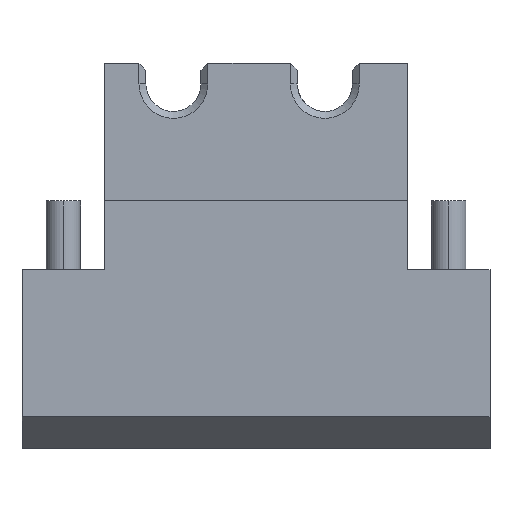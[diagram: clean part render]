
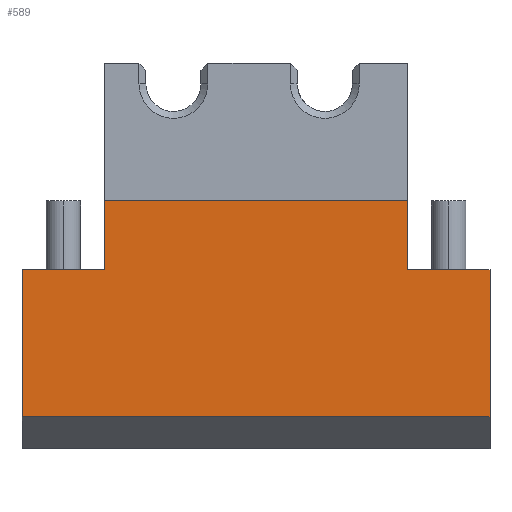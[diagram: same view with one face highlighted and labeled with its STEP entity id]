
A CAD part, left-side view. The second image highlights one B-rep face of the part: STEP entity #589.
In plain terms, the highlighted planar face has unit normal (-1, 0, 0).
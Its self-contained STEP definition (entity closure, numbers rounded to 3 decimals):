
#1 = CARTESIAN_POINT ( 'NONE',  ( 0., 11., 13. ) ) ;
#7 = CARTESIAN_POINT ( 'NONE',  ( 0., -11., 13. ) ) ;
#27 = EDGE_CURVE ( 'NONE', #786, #1669, #655, .T. ) ;
#29 = ORIENTED_EDGE ( 'NONE', *, *, #1069, .F. ) ;
#97 = CARTESIAN_POINT ( 'NONE',  ( 0., 17., 28. ) ) ;
#100 = ORIENTED_EDGE ( 'NONE', *, *, #27, .T. ) ;
#101 = CARTESIAN_POINT ( 'NONE',  ( 0., 17., 13. ) ) ;
#108 = DIRECTION ( 'NONE',  ( 0., 0., 1. ) ) ;
#109 = LINE ( 'NONE', #1, #803 ) ;
#125 = VECTOR ( 'NONE', #1016, 1000. ) ;
#127 = LINE ( 'NONE', #190, #125 ) ;
#136 = ORIENTED_EDGE ( 'NONE', *, *, #1081, .F. ) ;
#150 = LINE ( 'NONE', #719, #456 ) ;
#163 = ORIENTED_EDGE ( 'NONE', *, *, #751, .F. ) ;
#190 = CARTESIAN_POINT ( 'NONE',  ( 0., 17., 13. ) ) ;
#194 = CARTESIAN_POINT ( 'NONE',  ( 0., 17., 2.309 ) ) ;
#209 = ORIENTED_EDGE ( 'NONE', *, *, #1801, .T. ) ;
#226 = DIRECTION ( 'NONE',  ( 0., -1., 0. ) ) ;
#246 = DIRECTION ( 'NONE',  ( 0., 0., 1. ) ) ;
#262 = LINE ( 'NONE', #194, #485 ) ;
#306 = LINE ( 'NONE', #97, #676 ) ;
#337 = EDGE_CURVE ( 'NONE', #1159, #1669, #109, .T. ) ;
#423 = LINE ( 'NONE', #1026, #1471 ) ;
#456 = VECTOR ( 'NONE', #1735, 1000. ) ;
#463 = CARTESIAN_POINT ( 'NONE',  ( 0., 11., 13. ) ) ;
#485 = VECTOR ( 'NONE', #226, 1000. ) ;
#518 = CARTESIAN_POINT ( 'NONE',  ( 0., 17., 28. ) ) ;
#532 = DIRECTION ( 'NONE',  ( 0., 1., 0. ) ) ;
#548 = CARTESIAN_POINT ( 'NONE',  ( 0., -17., 18. ) ) ;
#587 = CARTESIAN_POINT ( 'NONE',  ( 0., -11., 28. ) ) ;
#589 = ADVANCED_FACE ( 'NONE', ( #1351 ), #824, .T. ) ;
#653 = VECTOR ( 'NONE', #532, 1000. ) ;
#655 = LINE ( 'NONE', #548, #653 ) ;
#676 = VECTOR ( 'NONE', #1782, 1000. ) ;
#690 = EDGE_LOOP ( 'NONE', ( #100, #1308, #163, #800, #209, #136, #890, #29 ) ) ;
#701 = CARTESIAN_POINT ( 'NONE',  ( 0., 17., 2.309 ) ) ;
#719 = CARTESIAN_POINT ( 'NONE',  ( 0., -17., 28. ) ) ;
#723 = CARTESIAN_POINT ( 'NONE',  ( 0., -17., 13. ) ) ;
#751 = EDGE_CURVE ( 'NONE', #972, #1159, #127, .T. ) ;
#754 = VERTEX_POINT ( 'NONE', #701 ) ;
#757 = AXIS2_PLACEMENT_3D ( 'NONE', #518, #1104, #246 ) ;
#786 = VERTEX_POINT ( 'NONE', #1701 ) ;
#791 = CARTESIAN_POINT ( 'NONE',  ( 0., 11., 18. ) ) ;
#800 = ORIENTED_EDGE ( 'NONE', *, *, #1714, .T. ) ;
#803 = VECTOR ( 'NONE', #108, 1000. ) ;
#824 = PLANE ( 'NONE',  #757 ) ;
#890 = ORIENTED_EDGE ( 'NONE', *, *, #1010, .F. ) ;
#947 = DIRECTION ( 'NONE',  ( 0., 0., -1. ) ) ;
#972 = VERTEX_POINT ( 'NONE', #101 ) ;
#1010 = EDGE_CURVE ( 'NONE', #1717, #1510, #423, .T. ) ;
#1016 = DIRECTION ( 'NONE',  ( 0., -1., 0. ) ) ;
#1026 = CARTESIAN_POINT ( 'NONE',  ( 0., -11., 13. ) ) ;
#1069 = EDGE_CURVE ( 'NONE', #786, #1717, #1240, .T. ) ;
#1081 = EDGE_CURVE ( 'NONE', #1510, #1497, #150, .T. ) ;
#1104 = DIRECTION ( 'NONE',  ( -1., 0., 0. ) ) ;
#1159 = VERTEX_POINT ( 'NONE', #463 ) ;
#1195 = VECTOR ( 'NONE', #947, 1000. ) ;
#1240 = LINE ( 'NONE', #587, #1195 ) ;
#1308 = ORIENTED_EDGE ( 'NONE', *, *, #337, .F. ) ;
#1351 = FACE_OUTER_BOUND ( 'NONE', #690, .T. ) ;
#1440 = CARTESIAN_POINT ( 'NONE',  ( 0., -17., 2.309 ) ) ;
#1471 = VECTOR ( 'NONE', #1715, 1000. ) ;
#1497 = VERTEX_POINT ( 'NONE', #1440 ) ;
#1510 = VERTEX_POINT ( 'NONE', #723 ) ;
#1669 = VERTEX_POINT ( 'NONE', #791 ) ;
#1701 = CARTESIAN_POINT ( 'NONE',  ( 0., -11., 18. ) ) ;
#1714 = EDGE_CURVE ( 'NONE', #972, #754, #306, .T. ) ;
#1715 = DIRECTION ( 'NONE',  ( 0., -1., 0. ) ) ;
#1717 = VERTEX_POINT ( 'NONE', #7 ) ;
#1735 = DIRECTION ( 'NONE',  ( 0., 0., -1. ) ) ;
#1782 = DIRECTION ( 'NONE',  ( 0., 0., -1. ) ) ;
#1801 = EDGE_CURVE ( 'NONE', #754, #1497, #262, .T. ) ;
